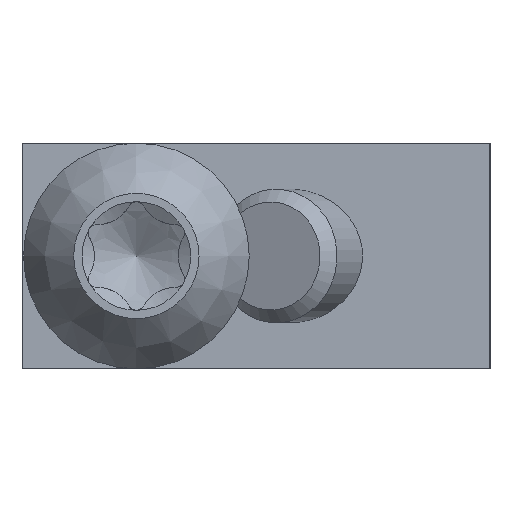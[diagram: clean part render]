
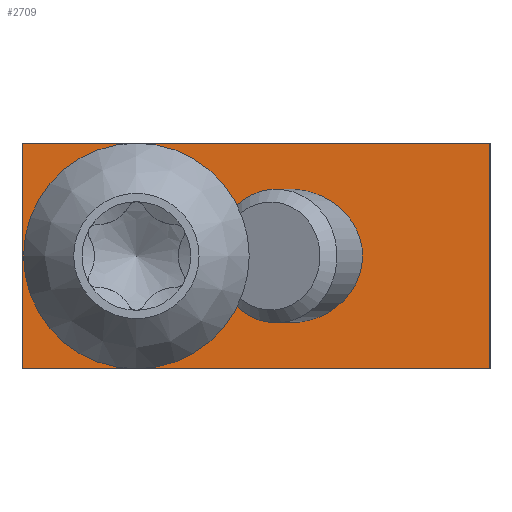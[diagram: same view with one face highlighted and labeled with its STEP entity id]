
A CAD part, front view. The second image highlights one B-rep face of the part: STEP entity #2709.
In plain terms, the highlighted planar face has unit normal (0, -1, 0).
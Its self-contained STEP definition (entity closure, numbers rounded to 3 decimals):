
#2065=CARTESIAN_POINT('',(6.374,0.,0.));
#2066=VERTEX_POINT('',#2065);
#2067=CARTESIAN_POINT('',(1.985,0.,0.));
#2068=DIRECTION('',(0.0,1.0,0.0));
#2069=DIRECTION('',(-1.0,0.0,0.0));
#2070=AXIS2_PLACEMENT_3D('',#2067,#2068,#2069);
#2071=ELLIPSE('',#2070,4.389,4.);
#2072=EDGE_CURVE('',#2066,#2066,#2071,.T.);
#2365=CARTESIAN_POINT('',(-3.106,0.0,0.));
#2366=VERTEX_POINT('',#2365);
#2367=CARTESIAN_POINT('',(-7.156,0.0,0.0));
#2368=DIRECTION('',(0.0,1.0,0.0));
#2369=DIRECTION('',(-1.0,0.0,0.0));
#2370=AXIS2_PLACEMENT_3D('',#2367,#2368,#2369);
#2371=CIRCLE('',#2370,4.05);
#2372=EDGE_CURVE('',#2366,#2366,#2371,.T.);
#2609=CARTESIAN_POINT('',(14.,0.,6.75));
#2610=VERTEX_POINT('',#2609);
#2617=CARTESIAN_POINT('',(14.,0.,-6.75));
#2618=VERTEX_POINT('',#2617);
#2619=CARTESIAN_POINT('',(14.,0.,-6.75));
#2620=DIRECTION('',(0.0,0.0,1.0));
#2621=VECTOR('',#2620,13.5);
#2622=LINE('',#2619,#2621);
#2623=EDGE_CURVE('',#2618,#2610,#2622,.T.);
#2641=CARTESIAN_POINT('',(-14.,0.0,6.75));
#2642=VERTEX_POINT('',#2641);
#2649=CARTESIAN_POINT('',(14.,0.,6.75));
#2650=DIRECTION('',(-1.0,0.0,0.0));
#2651=VECTOR('',#2650,28.);
#2652=LINE('',#2649,#2651);
#2653=EDGE_CURVE('',#2610,#2642,#2652,.T.);
#2665=CARTESIAN_POINT('',(-14.,0.0,-6.75));
#2666=VERTEX_POINT('',#2665);
#2673=CARTESIAN_POINT('',(-14.,0.0,6.75));
#2674=DIRECTION('',(0.0,0.0,-1.0));
#2675=VECTOR('',#2674,13.5);
#2676=LINE('',#2673,#2675);
#2677=EDGE_CURVE('',#2642,#2666,#2676,.T.);
#2687=CARTESIAN_POINT('',(-14.,0.0,0.0));
#2688=DIRECTION('',(0.0,-1.0,0.0));
#2689=DIRECTION('',(0.0,0.0,-1.0));
#2690=AXIS2_PLACEMENT_3D('',#2687,#2688,#2689);
#2691=PLANE('',#2690);
#2692=CARTESIAN_POINT('',(-14.,0.0,-6.75));
#2693=DIRECTION('',(1.0,0.0,0.0));
#2694=VECTOR('',#2693,28.);
#2695=LINE('',#2692,#2694);
#2696=EDGE_CURVE('',#2666,#2618,#2695,.T.);
#2697=ORIENTED_EDGE('',*,*,#2696,.T.);
#2698=ORIENTED_EDGE('',*,*,#2623,.T.);
#2699=ORIENTED_EDGE('',*,*,#2653,.T.);
#2700=ORIENTED_EDGE('',*,*,#2677,.T.);
#2701=EDGE_LOOP('',(#2697,#2698,#2699,#2700));
#2702=FACE_OUTER_BOUND('',#2701,.T.);
#2703=ORIENTED_EDGE('',*,*,#2072,.T.);
#2704=EDGE_LOOP('',(#2703));
#2705=FACE_BOUND('',#2704,.T.);
#2706=ORIENTED_EDGE('',*,*,#2372,.T.);
#2707=EDGE_LOOP('',(#2706));
#2708=FACE_BOUND('',#2707,.T.);
#2709=ADVANCED_FACE('',(#2702,#2705,#2708),#2691,.T.);
